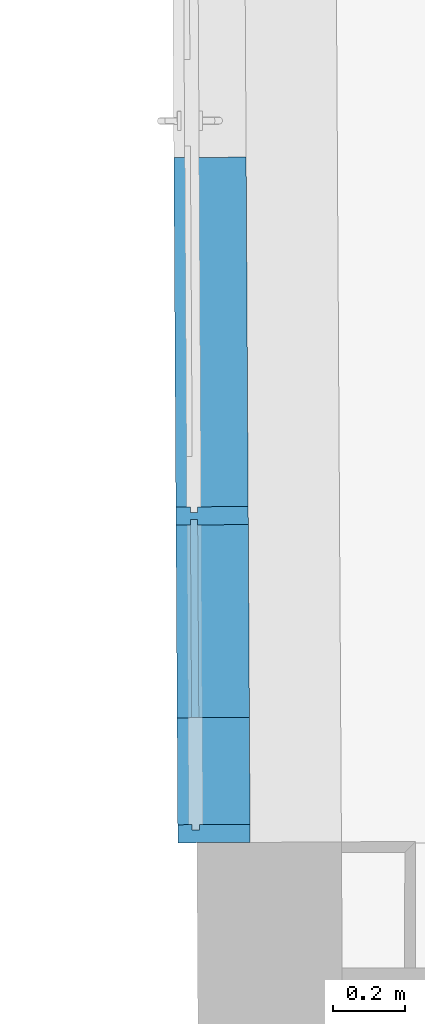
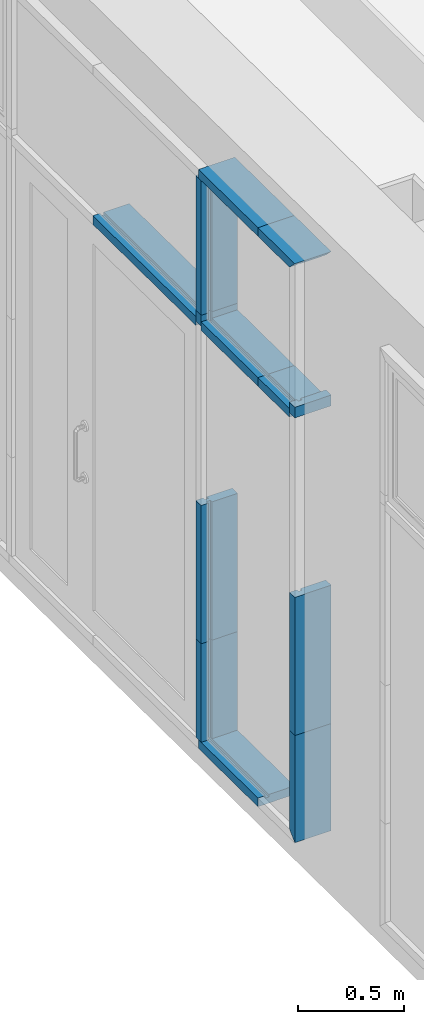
# One storey, part 153 of 196: 13 building element parts, 1 element without a shape of its own.
"""IFC2X3 building model written with IfcOpenShell, lengths in metres."""

from ifc_helpers import new_model, entity, si_unit, converted_unit, derived_unit, money_unit, direction, frame, origin_with_axes, place, context, subcontext, project, spatial, faceted_brep, material, type_object, element, aggregate, save


model = new_model("IFC2X3")

# Units and contexts
model_context = context("Model", 3, precision=1e-05, world=origin_with_axes(), true_north=direction((0.0, 1.0)))
body_context = subcontext(model_context, "Body", "Model", "MODEL_VIEW")
ifc_project = project(units=[si_unit("LENGTHUNIT", "METRE"), si_unit("AREAUNIT", "SQUARE_METRE"), si_unit("VOLUMEUNIT", "CUBIC_METRE"), converted_unit("PLANEANGLEUNIT", "DEGREE", entity("IfcPlaneAngleMeasure", 0.0174532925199), si_unit("PLANEANGLEUNIT", "RADIAN"), dimensions=[0, 0, 0, 0, 0, 0, 0]), money_unit("EUR"), converted_unit("TIMEUNIT", "Year", entity("IfcTimeMeasure", 31556926.0), si_unit("TIMEUNIT", "SECOND"), dimensions=[0, 0, 1, 0, 0, 0, 0]), si_unit("MASSUNIT", "GRAM", prefix="KILO"), si_unit("THERMODYNAMICTEMPERATUREUNIT", "DEGREE_CELSIUS"), si_unit("LUMINOUSINTENSITYUNIT", "LUMEN"), si_unit("ENERGYUNIT", "JOULE", prefix="MEGA"), derived_unit("THERMALCONDUCTANCEUNIT", [(si_unit("POWERUNIT", "WATT"), 1), (si_unit("LENGTHUNIT", "METRE"), -1), (si_unit("THERMODYNAMICTEMPERATUREUNIT", "KELVIN"), -1)]), derived_unit("SPECIFICHEATCAPACITYUNIT", [(si_unit("ENERGYUNIT", "JOULE"), 1), (si_unit("MASSUNIT", "GRAM", prefix="KILO"), -1), (si_unit("THERMODYNAMICTEMPERATUREUNIT", "KELVIN"), -1)]), derived_unit("MASSDENSITYUNIT", [(si_unit("MASSUNIT", "GRAM", prefix="KILO"), 1), (si_unit("VOLUMEUNIT", "CUBIC_METRE"), -1)])], contexts=[model_context])

# Site, building, storey
site_placement = place(None, origin_with_axes())
site = spatial("IfcSite", under=ifc_project, at=site_placement, Name="Gelände", CompositionType="ELEMENT")
building_placement = place(site_placement, origin_with_axes())
building = spatial("IfcBuilding", under=site, at=building_placement, Name="Gebäude", CompositionType="ELEMENT")
storey_placement = place(building_placement, frame((0.0, 0.0, -3.0), z_axis=(0.0, 0.0, 1.0), x_axis=(1.0, 0.0, 0.0)))
storey = spatial("IfcBuildingStorey", under=building, at=storey_placement, Name="KELLERGESCHOSS", CompositionType="ELEMENT", Elevation=-3.0)

# Proxy, building element parts
building_element_proxy_type = type_object("IfcBuildingElementProxyType", Name="Fassadentyp", PredefinedType="NOTDEFINED")
proxy_placement = place(storey_placement, frame((-34.913387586, 47.2552574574, 0.421025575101), z_axis=(0.0, 0.0, 1.0), x_axis=(1.0, 0.0, 0.0)))
proxy = element("IfcBuildingElementProxy", 1, at=proxy_placement, inside=storey, type_object=building_element_proxy_type, Name="Fassade-002")
ifc_material = material(Name="53_Metall, Aluminium")
building_element_part_1_placement = place(proxy_placement, origin_with_axes())
building_element_part_1 = element("IfcBuildingElementPart", 2, at=building_element_part_1_placement, material=ifc_material, Name="53_Metall, Aluminium", context=body_context, shape_type="Brep", body=[
    faceted_brep([(0.0186086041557, -1.46780837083, 2.44764337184), (0.0186086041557, -1.46780837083, 2.43264337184), (0.15860619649, -1.46698731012, 2.43264337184), (0.15860619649, -1.46698731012, 2.48264337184), (0.0186086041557, -1.46780837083, 2.48264337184), (0.0186086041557, -1.46780837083, 2.46764337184), (-0.00139105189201, -1.46792566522, 2.46764337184), (-0.00139105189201, -1.46792566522, 2.48264337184), (-0.0413903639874, -1.46816025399, 2.48264337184), (-0.0413903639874, -1.46816025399, 2.43264337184), (-0.00139105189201, -1.46792566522, 2.43264337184), (-0.00139105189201, -1.46792566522, 2.44764337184), (0.0154804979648, -0.934440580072, 2.44764337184), (0.0154804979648, -0.934440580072, 2.43264337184), (0.155478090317, -0.933619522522, 2.43264337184), (0.155478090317, -0.933619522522, 2.48264337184), (0.0154804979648, -0.934440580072, 2.48264337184), (0.0154804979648, -0.934440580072, 2.46764337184), (-0.0045191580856, -0.934557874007, 2.46764337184), (-0.0045191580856, -0.934557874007, 2.48264337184), (-0.0445184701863, -0.934792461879, 2.48264337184), (-0.0445184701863, -0.934792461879, 2.43264337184), (-0.0045191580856, -0.934557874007, 2.43264337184), (-0.0045191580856, -0.934557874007, 2.44764337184)], [[[0, 1, 2, 3, 4, 5, 6, 7, 8, 9, 10, 11]], [[1, 0, 12, 13]], [[1, 13, 14, 2]], [[2, 14, 15, 3]], [[4, 3, 15, 16]], [[4, 16, 17, 5]], [[5, 17, 18, 6]], [[7, 6, 18, 19]], [[19, 20, 8, 7]], [[8, 20, 21, 9]], [[22, 10, 9, 21]], [[11, 10, 22, 23]], [[0, 11, 23, 12]], [[23, 22, 21, 20, 19, 18, 17, 16, 15, 14, 13, 12]]]),
])
building_element_part_2_placement = place(proxy_placement, origin_with_axes())
building_element_part_2 = element("IfcBuildingElementPart", 3, at=building_element_part_2_placement, material=ifc_material, Name="53_Metall, Aluminium", context=body_context, shape_type="Brep", body=[
    faceted_brep([(0.0186086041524, -1.46780837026, 0.0349999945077), (-0.00139105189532, -1.46792566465, 0.0349999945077), (-0.00139105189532, -1.46792566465, 0.0499999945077), (-0.0413903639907, -1.46816025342, 0.0499999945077), (-0.0413903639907, -1.46816025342, -5.49228129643e-09), (0.158606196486, -1.46698730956, -5.49228129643e-09), (0.158606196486, -1.46698730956, 0.0499999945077), (0.0186086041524, -1.46780837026, 0.0499999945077), (0.0153338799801, -0.909441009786, 0.0349999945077), (-0.00466577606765, -0.909558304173, 0.0349999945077), (-0.00466577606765, -0.909558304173, 0.0499999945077), (-0.0446650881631, -0.909792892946, 0.0499999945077), (-0.0446650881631, -0.909792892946, -5.49228129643e-09), (0.155331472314, -0.90861994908, -5.49228129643e-09), (0.155331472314, -0.90861994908, 0.0499999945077), (0.0153338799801, -0.909441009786, 0.0499999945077)], [[[0, 1, 2, 3, 4, 5, 6, 7]], [[1, 0, 8, 9]], [[10, 2, 1, 9]], [[2, 10, 11, 3]], [[12, 4, 3, 11]], [[13, 5, 4, 12]], [[14, 6, 5, 13]], [[15, 7, 6, 14]], [[0, 7, 15, 8]], [[8, 15, 14, 13, 12, 11, 10, 9]]]),
])
building_element_part_3_placement = place(proxy_placement, origin_with_axes())
building_element_part_3 = element("IfcBuildingElementPart", 4, at=building_element_part_3_placement, material=ifc_material, Name="53_Metall, Aluminium", context=body_context, shape_type="Brep", body=[
    faceted_brep([(0.0153925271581, -0.919440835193, 3.29999994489), (0.0154804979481, -0.934440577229, 3.29999994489), (0.155478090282, -0.933619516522, 3.29999994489), (0.155184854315, -0.883620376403, 3.29999994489), (0.0151872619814, -0.88444143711, 3.29999994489), (0.0152752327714, -0.899441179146, 3.29999994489), (-0.00472442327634, -0.899558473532, 3.29999994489), (-0.00481239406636, -0.884558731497, 3.29999994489), (-0.0448117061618, -0.88479332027, 3.29999994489), (-0.0445184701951, -0.934792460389, 3.29999994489), (-0.00451915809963, -0.934557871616, 3.29999994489), (-0.00460712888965, -0.91955812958, 3.29999994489), (0.0153925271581, -0.919440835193, 2.52000003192), (0.0154804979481, -0.934440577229, 2.52000003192), (0.155478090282, -0.933619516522, 2.52000003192), (0.155184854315, -0.883620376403, 2.52000003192), (0.0151872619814, -0.88444143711, 2.52000003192), (0.0152752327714, -0.899441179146, 2.52000003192), (-0.00472442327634, -0.899558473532, 2.52000003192), (-0.00481239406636, -0.884558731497, 2.52000003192), (-0.0448117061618, -0.88479332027, 2.52000003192), (-0.0445184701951, -0.934792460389, 2.52000003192), (-0.00451915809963, -0.934557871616, 2.52000003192), (-0.00460712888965, -0.91955812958, 2.52000003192)], [[[0, 1, 2, 3, 4, 5, 6, 7, 8, 9, 10, 11]], [[1, 0, 12, 13]], [[1, 13, 14, 2]], [[3, 2, 14, 15]], [[4, 3, 15, 16]], [[4, 16, 17, 5]], [[5, 17, 18, 6]], [[7, 6, 18, 19]], [[19, 20, 8, 7]], [[9, 8, 20, 21]], [[22, 10, 9, 21]], [[11, 10, 22, 23]], [[0, 11, 23, 12]], [[23, 22, 21, 20, 19, 18, 17, 16, 15, 14, 13, 12]]]),
])
building_element_part_4_placement = place(proxy_placement, origin_with_axes())
building_element_part_4 = element("IfcBuildingElementPart", 5, at=building_element_part_4_placement, material=ifc_material, Name="53_Metall, Aluminium", context=body_context, shape_type="Brep", body=[
    faceted_brep([(0.0151872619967, -0.884441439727, 2.44764337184), (0.0151872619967, -0.884441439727, 2.43264337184), (0.155184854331, -0.88362037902, 2.43264337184), (0.155184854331, -0.88362037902, 2.48264337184), (0.0151872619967, -0.884441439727, 2.48264337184), (0.0151872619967, -0.884441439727, 2.46764337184), (-0.00481239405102, -0.884558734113, 2.46764337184), (-0.00481239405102, -0.884558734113, 2.48264337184), (-0.0448117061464, -0.884793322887, 2.48264337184), (-0.0448117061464, -0.884793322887, 2.43264337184), (-0.00481239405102, -0.884558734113, 2.43264337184), (-0.00481239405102, -0.884558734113, 2.44764337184), (0.00951828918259, 0.0821649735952, 2.44764337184), (0.00951828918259, 0.0821649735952, 2.43264337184), (0.149515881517, 0.082986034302, 2.43264337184), (0.149515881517, 0.082986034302, 2.48264337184), (0.00951828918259, 0.0821649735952, 2.48264337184), (0.00951828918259, 0.0821649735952, 2.46764337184), (-0.0104813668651, 0.0820476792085, 2.46764337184), (-0.0104813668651, 0.0820476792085, 2.48264337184), (-0.0504806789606, 0.0818130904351, 2.48264337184), (-0.0504806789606, 0.0818130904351, 2.43264337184), (-0.0104813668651, 0.0820476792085, 2.43264337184), (-0.0104813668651, 0.0820476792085, 2.44764337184)], [[[0, 1, 2, 3, 4, 5, 6, 7, 8, 9, 10, 11]], [[1, 0, 12, 13]], [[1, 13, 14, 2]], [[3, 2, 14, 15]], [[4, 3, 15, 16]], [[4, 16, 17, 5]], [[5, 17, 18, 6]], [[7, 6, 18, 19]], [[19, 20, 8, 7]], [[9, 8, 20, 21]], [[22, 10, 9, 21]], [[11, 10, 22, 23]], [[0, 11, 23, 12]], [[23, 22, 21, 20, 19, 18, 17, 16, 15, 14, 13, 12]]]),
])
building_element_part_5_placement = place(proxy_placement, origin_with_axes())
building_element_part_5 = element("IfcBuildingElementPart", 6, at=building_element_part_5_placement, material=ifc_material, Name="53_Metall, Aluminium", context=body_context, shape_type="Brep", body=[
    faceted_brep([(0.0153925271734, -0.91944083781, 1.42000003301), (0.0154804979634, -0.934440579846, 1.42000003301), (0.155478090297, -0.933619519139, 1.42000003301), (0.155184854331, -0.88362037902, 1.42000003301), (0.0151872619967, -0.884441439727, 1.42000003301), (0.0152752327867, -0.899441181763, 1.42000003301), (-0.004724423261, -0.899558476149, 1.42000003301), (-0.00481239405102, -0.884558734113, 1.42000003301), (-0.0448117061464, -0.884793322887, 1.42000003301), (-0.0445184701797, -0.934792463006, 1.42000003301), (-0.00451915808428, -0.934557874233, 1.42000003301), (-0.0046071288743, -0.919558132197, 1.42000003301), (0.0153925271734, -0.91944083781, 0.620000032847), (0.0154804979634, -0.934440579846, 0.620000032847), (0.155478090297, -0.933619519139, 0.620000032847), (0.155184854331, -0.88362037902, 0.620000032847), (0.0151872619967, -0.884441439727, 0.620000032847), (0.0152752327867, -0.899441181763, 0.620000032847), (-0.004724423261, -0.899558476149, 0.620000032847), (-0.00481239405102, -0.884558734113, 0.620000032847), (-0.0448117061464, -0.884793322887, 0.620000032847), (-0.0445184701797, -0.934792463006, 0.620000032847), (-0.00451915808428, -0.934557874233, 0.620000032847), (-0.0046071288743, -0.919558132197, 0.620000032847)], [[[0, 1, 2, 3, 4, 5, 6, 7, 8, 9, 10, 11]], [[1, 0, 12, 13]], [[1, 13, 14, 2]], [[3, 2, 14, 15]], [[4, 3, 15, 16]], [[4, 16, 17, 5]], [[5, 17, 18, 6]], [[7, 6, 18, 19]], [[19, 20, 8, 7]], [[9, 8, 20, 21]], [[22, 10, 9, 21]], [[11, 10, 22, 23]], [[0, 11, 23, 12]], [[23, 22, 21, 20, 19, 18, 17, 16, 15, 14, 13, 12]]]),
])
building_element_part_6_placement = place(proxy_placement, origin_with_axes())
building_element_part_6 = element("IfcBuildingElementPart", 7, at=building_element_part_6_placement, material=ifc_material, Name="53_Metall, Aluminium", context=body_context, shape_type="Brep", body=[
    faceted_brep([(0.0153925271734, -0.91944083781, 2.52000003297), (0.0154804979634, -0.934440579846, 2.52000003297), (0.155478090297, -0.933619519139, 2.52000003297), (0.155184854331, -0.88362037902, 2.52000003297), (0.0151872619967, -0.884441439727, 2.52000003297), (0.0152752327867, -0.899441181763, 2.52000003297), (-0.004724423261, -0.899558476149, 2.52000003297), (-0.00481239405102, -0.884558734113, 2.52000003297), (-0.0448117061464, -0.884793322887, 2.52000003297), (-0.0445184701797, -0.934792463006, 2.52000003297), (-0.00451915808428, -0.934557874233, 2.52000003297), (-0.0046071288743, -0.919558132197, 2.52000003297), (0.0153925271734, -0.91944083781, 2.45764337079), (0.0154804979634, -0.934440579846, 2.45764337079), (0.155478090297, -0.933619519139, 2.45764337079), (0.155184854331, -0.88362037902, 2.45764337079), (0.0151872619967, -0.884441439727, 2.45764337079), (0.0152752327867, -0.899441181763, 2.45764337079), (-0.004724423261, -0.899558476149, 2.45764337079), (-0.00481239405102, -0.884558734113, 2.45764337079), (-0.0448117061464, -0.884793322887, 2.45764337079), (-0.0445184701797, -0.934792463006, 2.45764337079), (-0.00451915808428, -0.934557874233, 2.45764337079), (-0.0046071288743, -0.919558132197, 2.45764337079)], [[[0, 1, 2, 3, 4, 5, 6, 7, 8, 9, 10, 11]], [[1, 0, 12, 13]], [[1, 13, 14, 2]], [[3, 2, 14, 15]], [[4, 3, 15, 16]], [[4, 16, 17, 5]], [[5, 17, 18, 6]], [[7, 6, 18, 19]], [[19, 20, 8, 7]], [[9, 8, 20, 21]], [[22, 10, 9, 21]], [[11, 10, 22, 23]], [[0, 11, 23, 12]], [[23, 22, 21, 20, 19, 18, 17, 16, 15, 14, 13, 12]]]),
])
building_element_part_7_placement = place(proxy_placement, origin_with_axes())
building_element_part_7 = element("IfcBuildingElementPart", 8, at=building_element_part_7_placement, material=ifc_material, Name="53_Metall, Aluminium", context=body_context, shape_type="Brep", body=[
    faceted_brep([(0.0204320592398, -1.77872243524, 2.52000003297), (0.000432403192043, -1.77883972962, 2.52000003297), (0.000344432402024, -1.76383998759, 2.52000003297), (-0.0396548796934, -1.76407457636, 2.52000003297), (-0.0393616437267, -1.81407371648, 2.52000003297), (0.16063491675, -1.81290077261, 2.52000003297), (0.160341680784, -1.76290163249, 2.52000003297), (0.0203440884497, -1.7637226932, 2.52000003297), (0.0204320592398, -1.77872243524, 2.45764338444), (0.000432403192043, -1.77883972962, 2.45764338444), (0.000344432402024, -1.76383998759, 2.45764338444), (-0.0396548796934, -1.76407457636, 2.45764338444), (-0.0393616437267, -1.81407371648, 2.45764338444), (0.16063491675, -1.81290077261, 2.45764338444), (0.160341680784, -1.76290163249, 2.45764338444), (0.0203440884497, -1.7637226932, 2.45764338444)], [[[0, 1, 2, 3, 4, 5, 6, 7]], [[1, 0, 8, 9]], [[10, 2, 1, 9]], [[2, 10, 11, 3]], [[12, 4, 3, 11]], [[13, 5, 4, 12]], [[14, 6, 5, 13]], [[15, 7, 6, 14]], [[0, 7, 15, 8]], [[8, 15, 14, 13, 12, 11, 10, 9]]]),
])
building_element_part_8_placement = place(proxy_placement, origin_with_axes())
building_element_part_8 = element("IfcBuildingElementPart", 9, at=building_element_part_8_placement, material=ifc_material, Name="53_Metall, Aluminium", context=body_context, shape_type="Brep", body=[
    faceted_brep([(0.0204320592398, -1.77872243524, 1.42000003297), (0.000432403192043, -1.77883972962, 1.42000003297), (0.000344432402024, -1.76383998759, 1.42000003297), (-0.0396548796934, -1.76407457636, 1.42000003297), (-0.0393616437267, -1.81407371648, 1.42000003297), (0.16063491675, -1.81290077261, 1.42000003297), (0.160341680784, -1.76290163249, 1.42000003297), (0.0203440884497, -1.7637226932, 1.42000003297), (0.0204320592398, -1.77872243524, 0.620000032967), (0.000432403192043, -1.77883972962, 0.620000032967), (0.000344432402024, -1.76383998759, 0.620000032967), (-0.0396548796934, -1.76407457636, 0.620000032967), (-0.0393616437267, -1.81407371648, 0.620000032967), (0.16063491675, -1.81290077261, 0.620000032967), (0.160341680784, -1.76290163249, 0.620000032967), (0.0203440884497, -1.7637226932, 0.620000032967)], [[[0, 1, 2, 3, 4, 5, 6, 7]], [[1, 0, 8, 9]], [[10, 2, 1, 9]], [[2, 10, 11, 3]], [[12, 4, 3, 11]], [[13, 5, 4, 12]], [[14, 6, 5, 13]], [[15, 7, 6, 14]], [[0, 7, 15, 8]], [[8, 15, 14, 13, 12, 11, 10, 9]]]),
])
building_element_part_9_placement = place(proxy_placement, origin_with_axes())
building_element_part_9 = element("IfcBuildingElementPart", 10, at=building_element_part_9_placement, material=ifc_material, Name="53_Metall, Aluminium", context=body_context, shape_type="Brep", body=[
    faceted_brep([(0.0204320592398, -1.77872243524, 0.620000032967), (0.000432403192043, -1.77883972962, 0.620000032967), (0.000344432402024, -1.76383998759, 0.620000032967), (-0.0396548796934, -1.76407457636, 0.620000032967), (-0.0393616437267, -1.81407371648, 0.620000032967), (0.16063491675, -1.81290077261, 0.620000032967), (0.160341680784, -1.76290163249, 0.620000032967), (0.0203440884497, -1.7637226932, 0.620000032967), (0.0204320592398, -1.77872243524, 0.0349999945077), (0.000432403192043, -1.77883972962, 0.0349999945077), (0.000344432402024, -1.76383998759, 0.0499999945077), (-0.0396548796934, -1.76407457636, 0.0499999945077), (-0.0393616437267, -1.81407371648, -5.49228085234e-09), (0.16063491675, -1.81290077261, -5.49228307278e-09), (0.160341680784, -1.76290163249, 0.0499999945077), (0.0203440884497, -1.7637226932, 0.0499999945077)], [[[0, 1, 2, 3, 4, 5, 6, 7]], [[1, 0, 8, 9]], [[10, 2, 1, 9]], [[2, 10, 11, 3]], [[4, 3, 11, 12]], [[5, 4, 12, 13]], [[6, 5, 13, 14]], [[15, 7, 6, 14]], [[0, 7, 15, 8]], [[8, 15, 14, 13, 12, 11, 10, 9]]]),
])
building_element_part_10_placement = place(proxy_placement, origin_with_axes())
building_element_part_10 = element("IfcBuildingElementPart", 11, at=building_element_part_10_placement, material=ifc_material, Name="53_Metall, Aluminium", context=body_context, shape_type="Brep", body=[
    faceted_brep([(0.0186086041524, -1.46780837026, 3.31499994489), (0.0186086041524, -1.46780837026, 3.29999994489), (0.158606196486, -1.46698730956, 3.29999994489), (0.158606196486, -1.46698730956, 3.34999994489), (-0.0413903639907, -1.46816025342, 3.34999994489), (-0.0413903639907, -1.46816025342, 3.29999994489), (-0.00139105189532, -1.46792566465, 3.29999994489), (-0.00139105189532, -1.46792566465, 3.31499994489), (0.0153338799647, -0.90944100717, 3.31499994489), (0.0153338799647, -0.90944100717, 3.29999994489), (0.155331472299, -0.908619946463, 3.29999994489), (0.155331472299, -0.908619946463, 3.34999994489), (-0.0446650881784, -0.90979289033, 3.34999994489), (-0.0446650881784, -0.90979289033, 3.29999994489), (-0.00466577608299, -0.909558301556, 3.29999994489), (-0.00466577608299, -0.909558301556, 3.31499994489)], [[[0, 1, 2, 3, 4, 5, 6, 7]], [[0, 8, 9, 1]], [[9, 10, 2, 1]], [[10, 11, 3, 2]], [[11, 12, 4, 3]], [[12, 13, 5, 4]], [[6, 5, 13, 14]], [[14, 15, 7, 6]], [[7, 15, 8, 0]], [[8, 15, 14, 13, 12, 11, 10, 9]]]),
])
building_element_part_11_placement = place(proxy_placement, origin_with_axes())
building_element_part_11 = element("IfcBuildingElementPart", 12, at=building_element_part_11_placement, material=ifc_material, Name="53_Metall, Aluminium", context=body_context, shape_type="Brep", body=[
    faceted_brep([(0.0204320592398, -1.77872243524, 3.31499994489), (0.0203440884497, -1.7637226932, 3.29999994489), (0.160341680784, -1.76290163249, 3.29999994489), (0.16063491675, -1.81290077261, 3.34999994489), (-0.0393616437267, -1.81407371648, 3.34999994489), (-0.0396548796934, -1.76407457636, 3.29999994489), (0.000344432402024, -1.76383998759, 3.29999994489), (0.000432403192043, -1.77883972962, 3.31499994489), (0.0186086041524, -1.46780837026, 3.31499994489), (0.0186086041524, -1.46780837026, 3.29999994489), (0.158606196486, -1.46698730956, 3.29999994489), (0.158606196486, -1.46698730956, 3.34999994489), (-0.0413903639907, -1.46816025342, 3.34999994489), (-0.0413903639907, -1.46816025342, 3.29999994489), (-0.00139105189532, -1.46792566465, 3.29999994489), (-0.00139105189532, -1.46792566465, 3.31499994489)], [[[0, 1, 2, 3, 4, 5, 6, 7]], [[0, 8, 9, 1]], [[9, 10, 2, 1]], [[10, 11, 3, 2]], [[11, 12, 4, 3]], [[12, 13, 5, 4]], [[6, 5, 13, 14]], [[14, 15, 7, 6]], [[7, 15, 8, 0]], [[8, 15, 14, 13, 12, 11, 10, 9]]]),
])
building_element_part_12_placement = place(proxy_placement, origin_with_axes())
building_element_part_12 = element("IfcBuildingElementPart", 13, at=building_element_part_12_placement, material=ifc_material, Name="53_Metall, Aluminium", context=body_context, shape_type="Brep", body=[
    faceted_brep([(0.0203440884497, -1.7637226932, 2.44764338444), (0.0203440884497, -1.7637226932, 2.43264338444), (0.160341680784, -1.76290163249, 2.43264338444), (0.160341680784, -1.76290163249, 2.48264338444), (0.0203440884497, -1.7637226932, 2.48264338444), (0.0203440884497, -1.7637226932, 2.46764338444), (0.000344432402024, -1.76383998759, 2.46764338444), (0.000344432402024, -1.76383998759, 2.48264338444), (-0.0396548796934, -1.76407457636, 2.48264338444), (-0.0396548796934, -1.76407457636, 2.43264338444), (0.000344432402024, -1.76383998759, 2.43264338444), (0.000344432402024, -1.76383998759, 2.44764338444), (0.0186086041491, -1.4678083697, 2.44764338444), (0.0186086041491, -1.4678083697, 2.43264338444), (0.158606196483, -1.46698730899, 2.43264338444), (0.158606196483, -1.46698730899, 2.48264338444), (0.0186086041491, -1.4678083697, 2.48264338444), (0.0186086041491, -1.4678083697, 2.46764338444), (-0.00139105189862, -1.46792566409, 2.46764338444), (-0.00139105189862, -1.46792566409, 2.48264338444), (-0.041390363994, -1.46816025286, 2.48264338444), (-0.041390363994, -1.46816025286, 2.43264338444), (-0.00139105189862, -1.46792566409, 2.43264338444), (-0.00139105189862, -1.46792566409, 2.44764338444)], [[[0, 1, 2, 3, 4, 5, 6, 7, 8, 9, 10, 11]], [[1, 0, 12, 13]], [[1, 13, 14, 2]], [[3, 2, 14, 15]], [[4, 3, 15, 16]], [[4, 16, 17, 5]], [[5, 17, 18, 6]], [[7, 6, 18, 19]], [[19, 20, 8, 7]], [[9, 8, 20, 21]], [[22, 10, 9, 21]], [[11, 10, 22, 23]], [[0, 11, 23, 12]], [[23, 22, 21, 20, 19, 18, 17, 16, 15, 14, 13, 12]]]),
])
building_element_part_13_placement = place(proxy_placement, origin_with_axes())
building_element_part_13 = element("IfcBuildingElementPart", 14, at=building_element_part_13_placement, material=ifc_material, Name="53_Metall, Aluminium", context=body_context, shape_type="Brep", body=[
    faceted_brep([(0.0153925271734, -0.91944083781, 0.620000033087), (0.0154804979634, -0.934440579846, 0.620000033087), (0.155478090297, -0.933619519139, 0.620000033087), (0.155184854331, -0.88362037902, 0.620000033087), (0.0151872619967, -0.884441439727, 0.620000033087), (0.0152752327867, -0.899441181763, 0.620000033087), (-0.004724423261, -0.899558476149, 0.620000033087), (-0.00481239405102, -0.884558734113, 0.620000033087), (-0.0448117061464, -0.884793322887, 0.620000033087), (-0.0445184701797, -0.934792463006, 0.620000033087), (-0.00451915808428, -0.934557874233, 0.620000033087), (-0.0046071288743, -0.919558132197, 0.620000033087), (0.0153925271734, -0.91944083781, 0.049999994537), (0.0154804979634, -0.934440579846, 0.049999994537), (0.155478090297, -0.933619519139, 0.0499999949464), (0.155184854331, -0.88362037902, 0.0499999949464), (0.0151872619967, -0.884441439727, 0.049999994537), (0.0152752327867, -0.899441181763, 0.049999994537), (-0.004724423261, -0.899558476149, 0.0499999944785), (-0.00481239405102, -0.884558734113, 0.0499999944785), (-0.0448117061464, -0.884793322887, 0.0499999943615), (-0.0445184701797, -0.934792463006, 0.0499999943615), (-0.00451915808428, -0.934557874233, 0.0499999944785), (-0.0046071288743, -0.919558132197, 0.0499999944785)], [[[0, 1, 2, 3, 4, 5, 6, 7, 8, 9, 10, 11]], [[1, 0, 12, 13]], [[1, 13, 14, 2]], [[2, 14, 15, 3]], [[4, 3, 15, 16]], [[4, 16, 17, 5]], [[5, 17, 18, 6]], [[7, 6, 18, 19]], [[19, 20, 8, 7]], [[8, 20, 21, 9]], [[22, 10, 9, 21]], [[11, 10, 22, 23]], [[0, 11, 23, 12]], [[23, 22, 21, 20, 19, 18, 17, 16, 15, 14, 13, 12]]]),
])
aggregate(proxy, [building_element_part_1, building_element_part_2, building_element_part_3, building_element_part_4, building_element_part_5, building_element_part_6, building_element_part_7, building_element_part_8, building_element_part_9, building_element_part_10, building_element_part_11, building_element_part_12, building_element_part_13])

save(model, "model.ifc")
